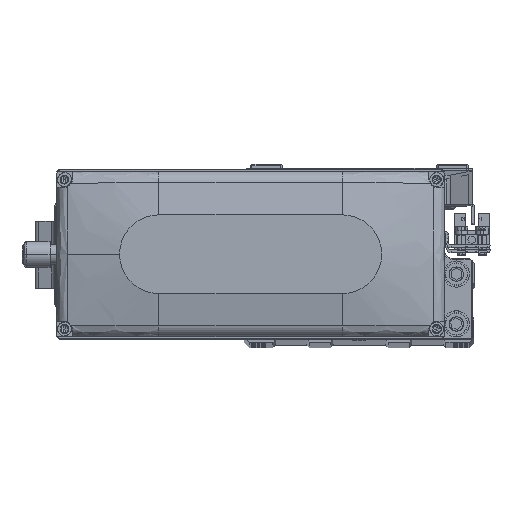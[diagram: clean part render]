
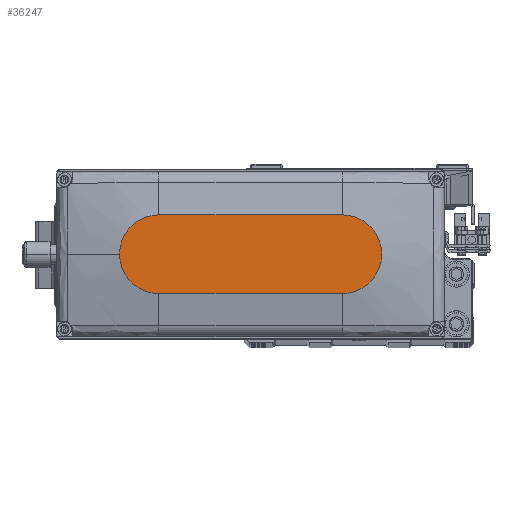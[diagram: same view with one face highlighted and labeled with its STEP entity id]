
A CAD part, top view. The second image highlights one B-rep face of the part: STEP entity #36247.
In plain terms, the highlighted planar face has unit normal (0, 0, 1).
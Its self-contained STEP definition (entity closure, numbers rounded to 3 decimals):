
#2728 = DIRECTION ( 'NONE',  ( 1., 0., 0. ) ) ;
#3339 = DIRECTION ( 'NONE',  ( 0., 0., 1. ) ) ;
#3660 = ORIENTED_EDGE ( 'NONE', *, *, #30484, .T. ) ;
#4512 = CARTESIAN_POINT ( 'NONE',  ( -35., -15., 35. ) ) ;
#5083 = VECTOR ( 'NONE', #20511, 1000. ) ;
#6084 = EDGE_CURVE ( 'NONE', #18979, #37417, #27267, .T. ) ;
#6463 = DIRECTION ( 'NONE',  ( 1., 0., 0. ) ) ;
#6680 = PLANE ( 'NONE',  #33345 ) ;
#7098 = VERTEX_POINT ( 'NONE', #33288 ) ;
#8319 = VERTEX_POINT ( 'NONE', #15808 ) ;
#11099 = LINE ( 'NONE', #27109, #33079 ) ;
#12585 = DIRECTION ( 'NONE',  ( 1., 0., 0. ) ) ;
#13703 = AXIS2_PLACEMENT_3D ( 'NONE', #32540, #48555, #12585 ) ;
#15533 = CIRCLE ( 'NONE', #44892, 15. ) ;
#15808 = CARTESIAN_POINT ( 'NONE',  ( -35., -15., 35. ) ) ;
#18876 = CARTESIAN_POINT ( 'NONE',  ( 35., -15., 35. ) ) ;
#18979 = VERTEX_POINT ( 'NONE', #33183 ) ;
#19336 = DIRECTION ( 'NONE',  ( 1., 0., 0. ) ) ;
#20511 = DIRECTION ( 'NONE',  ( 1., 0., 0. ) ) ;
#20904 = ORIENTED_EDGE ( 'NONE', *, *, #32399, .T. ) ;
#22691 = CARTESIAN_POINT ( 'NONE',  ( 0., 0., 35. ) ) ;
#23054 = VERTEX_POINT ( 'NONE', #18876 ) ;
#26392 = CARTESIAN_POINT ( 'NONE',  ( 35., 0., 35. ) ) ;
#27109 = CARTESIAN_POINT ( 'NONE',  ( -35., 15., 35. ) ) ;
#27267 = CIRCLE ( 'NONE', #33950, 15. ) ;
#30484 = EDGE_CURVE ( 'NONE', #7098, #8319, #36337, .T. ) ;
#31619 = EDGE_CURVE ( 'NONE', #37417, #7098, #11099, .T. ) ;
#32399 = EDGE_CURVE ( 'NONE', #23054, #18979, #15533, .T. ) ;
#32540 = CARTESIAN_POINT ( 'NONE',  ( -35., 0., 35. ) ) ;
#32931 = CARTESIAN_POINT ( 'NONE',  ( 35., 15., 35. ) ) ;
#33079 = VECTOR ( 'NONE', #43108, 1000. ) ;
#33183 = CARTESIAN_POINT ( 'NONE',  ( 50., 0., 35. ) ) ;
#33288 = CARTESIAN_POINT ( 'NONE',  ( -35., 15., 35. ) ) ;
#33345 = AXIS2_PLACEMENT_3D ( 'NONE', #22691, #38673, #2728 ) ;
#33950 = AXIS2_PLACEMENT_3D ( 'NONE', #39272, #3339, #19336 ) ;
#36247 = ADVANCED_FACE ( 'NONE', ( #42636 ), #6680, .T. ) ;
#36337 = CIRCLE ( 'NONE', #13703, 15. ) ;
#37417 = VERTEX_POINT ( 'NONE', #32931 ) ;
#38581 = ORIENTED_EDGE ( 'NONE', *, *, #31619, .T. ) ;
#38673 = DIRECTION ( 'NONE',  ( 0., 0., 1. ) ) ;
#39272 = CARTESIAN_POINT ( 'NONE',  ( 35., 0., 35. ) ) ;
#40246 = ORIENTED_EDGE ( 'NONE', *, *, #6084, .T. ) ;
#40453 = LINE ( 'NONE', #4512, #5083 ) ;
#42361 = EDGE_LOOP ( 'NONE', ( #38581, #3660, #50482, #20904, #40246 ) ) ;
#42402 = DIRECTION ( 'NONE',  ( 0., 0., 1. ) ) ;
#42636 = FACE_OUTER_BOUND ( 'NONE', #42361, .T. ) ;
#43108 = DIRECTION ( 'NONE',  ( -1., 0., 0. ) ) ;
#44892 = AXIS2_PLACEMENT_3D ( 'NONE', #26392, #42402, #6463 ) ;
#46865 = EDGE_CURVE ( 'NONE', #8319, #23054, #40453, .T. ) ;
#48555 = DIRECTION ( 'NONE',  ( 0., 0., 1. ) ) ;
#50482 = ORIENTED_EDGE ( 'NONE', *, *, #46865, .T. ) ;
